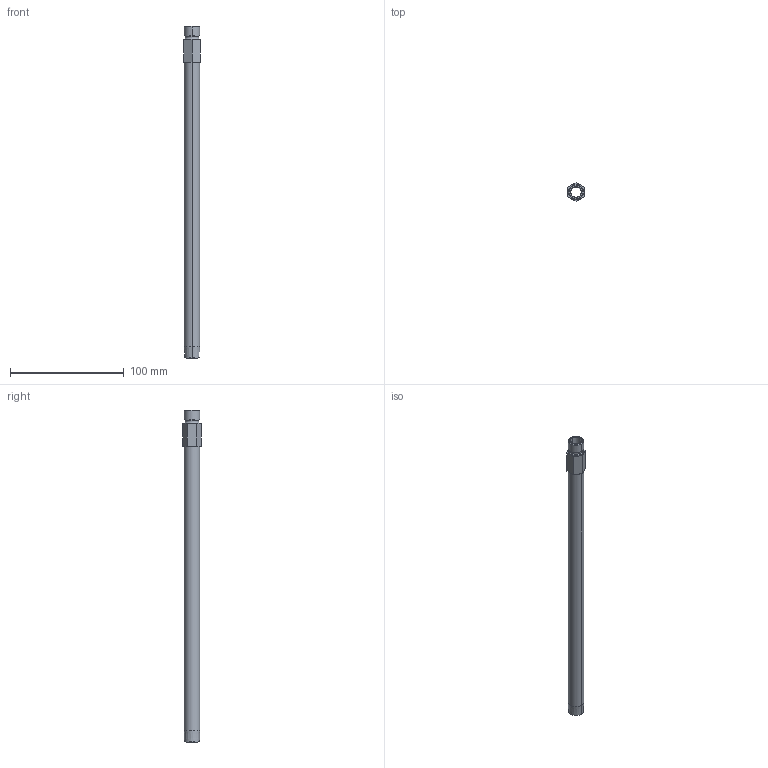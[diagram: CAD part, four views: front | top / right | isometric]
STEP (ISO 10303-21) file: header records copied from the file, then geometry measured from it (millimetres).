
FILE_DESCRIPTION (( 'STEP AP203' ), '1' );
FILE_NAME ('352L11.5.step', '2020-08-19T05:00:29', ( 'Microsoft Corporation' ), ( 'MS' ), 'SwSTEP 2.0', 'SolidWorks 2018', '' );
FILE_SCHEMA (( 'CONFIG_CONTROL_DESIGN' ));
Length unit declared in the file: inch
Products named in the file (1): 352L11.5
Bounding box: 14.22 x 16.42 x 292.1 mm (x, y, z)
Volume: 23825.6 mm3; surface area: 21381.4 mm2
Topology: 1 solids, 1 shells, 31 faces, 66 edges, 40 vertices
Faces by surface type: cylinder 12, plane 11, cone 8
Entity records: 915 total; most frequent: DIRECTION 158, CARTESIAN_POINT 138, ORIENTED_EDGE 132, EDGE_CURVE 66, AXIS2_PLACEMENT_3D 60, VERTEX_POINT 40, VECTOR 38, LINE 38
